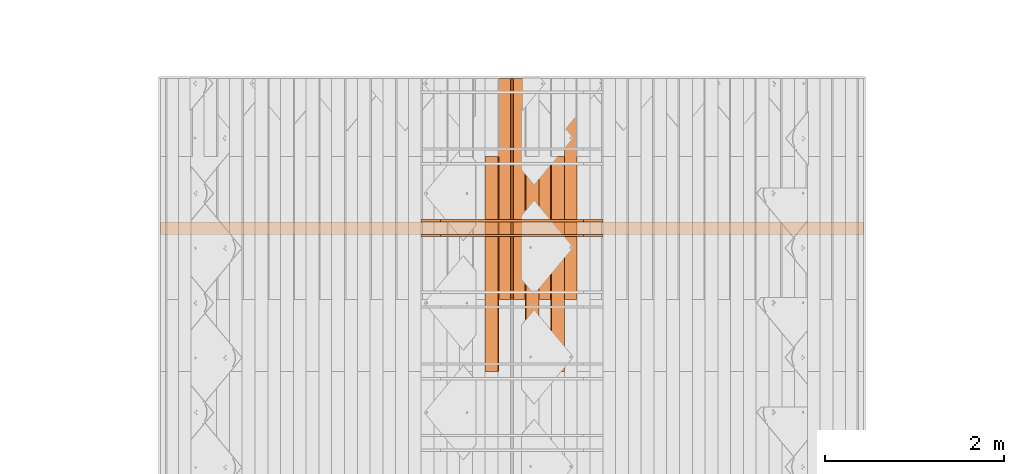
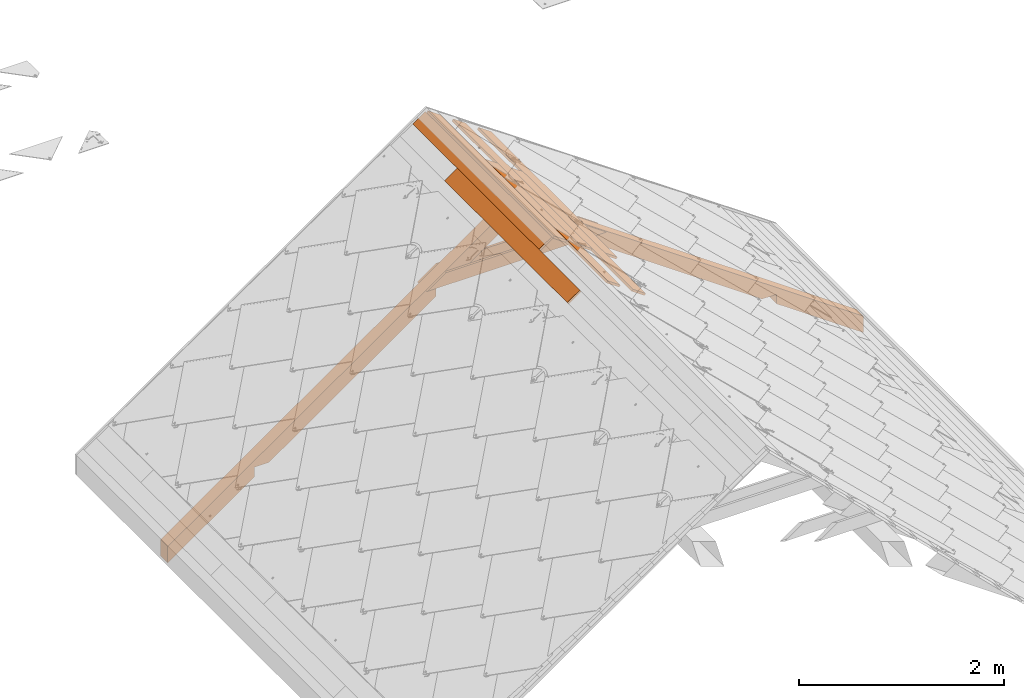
# One storey, part 71 of 151: 10 proxies, 1 element without a shape of its own.
"""IFC2X3 building model written with IfcOpenShell, lengths in millimetres."""

from ifc_helpers import new_model, entity, si_unit, converted_unit, derived_unit, direction, frame, frame_2d, origin, place, context, subcontext, project, spatial, polyline, rectangle, outline, extrude, source, transform, mapped, material, type_object, type_shapes, element, aggregate, save


model = new_model("IFC2X3")

# Units and contexts
model_context = context("Model", 3, precision=0.01, world=origin(), true_north=direction((6.12303176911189e-17, 1.0)))
body_context = subcontext(model_context, "Body", "Model", "MODEL_VIEW")
ifc_project = project(units=[si_unit("LENGTHUNIT", "METRE", prefix="MILLI"), si_unit("AREAUNIT", "SQUARE_METRE"), si_unit("VOLUMEUNIT", "CUBIC_METRE"), converted_unit("PLANEANGLEUNIT", "DEGREE", entity("IfcRatioMeasure", 0.0174532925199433), si_unit("PLANEANGLEUNIT", "RADIAN"), dimensions=[0, 0, 0, 0, 0, 0, 0]), si_unit("MASSUNIT", "GRAM", prefix="KILO"), derived_unit("MASSDENSITYUNIT", [(si_unit("MASSUNIT", "GRAM", prefix="KILO"), 1), (si_unit("LENGTHUNIT", "METRE"), -3)]), si_unit("TIMEUNIT", "SECOND"), si_unit("FREQUENCYUNIT", "HERTZ"), si_unit("THERMODYNAMICTEMPERATUREUNIT", "DEGREE_CELSIUS"), derived_unit("THERMALTRANSMITTANCEUNIT", [(si_unit("MASSUNIT", "GRAM", prefix="KILO"), 1), (si_unit("THERMODYNAMICTEMPERATUREUNIT", "KELVIN"), -1), (si_unit("TIMEUNIT", "SECOND"), -3)]), derived_unit("VOLUMETRICFLOWRATEUNIT", [(si_unit("LENGTHUNIT", "METRE"), 3), (si_unit("TIMEUNIT", "SECOND"), -1)]), si_unit("ELECTRICCURRENTUNIT", "AMPERE"), si_unit("ELECTRICVOLTAGEUNIT", "VOLT"), si_unit("POWERUNIT", "WATT"), si_unit("FORCEUNIT", "NEWTON", prefix="KILO"), si_unit("ILLUMINANCEUNIT", "LUX"), si_unit("LUMINOUSFLUXUNIT", "LUMEN"), si_unit("LUMINOUSINTENSITYUNIT", "CANDELA"), derived_unit("USERDEFINED", [(si_unit("MASSUNIT", "GRAM", prefix="KILO"), -1), (si_unit("LENGTHUNIT", "METRE"), -2), (si_unit("TIMEUNIT", "SECOND"), 3), (si_unit("LUMINOUSFLUXUNIT", "LUMEN"), 1)]), derived_unit("LINEARVELOCITYUNIT", [(si_unit("LENGTHUNIT", "METRE"), 1), (si_unit("TIMEUNIT", "SECOND"), -1)]), si_unit("PRESSUREUNIT", "PASCAL"), derived_unit("USERDEFINED", [(si_unit("LENGTHUNIT", "METRE"), -2), (si_unit("MASSUNIT", "GRAM", prefix="KILO"), 1), (si_unit("TIMEUNIT", "SECOND"), -2)])], contexts=[model_context])

# Site, building, storey
site_placement = place(None, origin())
site = spatial("IfcSite", under=ifc_project, at=site_placement, Name="Default", CompositionType="ELEMENT")
building_placement = place(site_placement, origin())
building = spatial("IfcBuilding", under=site, at=building_placement, CompositionType="ELEMENT")
storey_placement = place(building_placement, origin())
storey = spatial("IfcBuildingStorey", under=building, at=storey_placement, Name="Level 1", CompositionType="ELEMENT", Elevation=0.0)

# Assembly, proxies
assembly_placement = place(storey_placement, origin())
assembly = element("IfcElementAssembly", 1, at=assembly_placement, inside=storey, Name="Structural Framing Assembly:Roof Construction Assembly", ObjectType="Structural Framing Assembly:Roof Construction Assembly", AssemblyPlace="NOTDEFINED", PredefinedType="USERDEFINED")
ifc_material = material(Name="Wood - Generic - Wood For Showcase")
building_element_proxy_type_1 = type_object("IfcBuildingElementProxyType", Name="Structural Framing 1", PredefinedType="NOTDEFINED", material=ifc_material)
shared_shape_1 = source(origin(), body_context, "Body", "SweptSolid", [
    extrude(outline(polyline([(-929.245683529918, -1327.10037070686), (3863.25950492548, -1327.10037070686), (3975.29271103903, -1167.10037070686), (2778.93361405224, -1167.10037070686), (2713.54351952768, -1260.48710386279), (2580.17344271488, -1167.10037070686), (278.933614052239, -1167.10037070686), (213.543519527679, -1260.48710386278), (80.1734427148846, -1167.10037070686), (-817.212477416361, -1167.10037070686), (-1124.13653843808, -323.83344356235), (-1257.50661525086, -230.446710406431), (-1192.11652072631, -137.059977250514), (-1979.18689675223, 2025.39810840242), (-2112.55697356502, 2118.78484155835), (-2047.16687904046, 2212.17157471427), (-2456.34578886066, 3336.38138996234), (-2568.37899497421, 3176.38138996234), (-929.245683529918, -1327.10037070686)])), frame((1206.77890726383, 3785.55080214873, 1179.90959070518), z_axis=(0.0, 1.0, 0.0), x_axis=(0.819152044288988, 0.0, -0.573576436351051)), (0.0, 0.0, 1.0), 140.0),
])
type_shapes(building_element_proxy_type_1, [shared_shape_1])
proxy_1_placement = place(assembly_placement, frame((57.4878711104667, -1600.0, 0.0)))
proxy_1 = element("IfcBuildingElementProxy", 2, at=proxy_1_placement, type_object=building_element_proxy_type_1, material=ifc_material, Name="Structural Framing 3:Structural Framing 1", ObjectType="Structural Framing 3:Structural Framing 1", context=body_context, shape_type="MappedRepresentation", body=[
    mapped(shared_shape_1, transform((0.0, 0.0, 0.0), scale=1.0)),
])
building_element_proxy_type_2 = type_object("IfcBuildingElementProxyType", Name="Structural Framing 15", PredefinedType="NOTDEFINED", material=ifc_material)
shared_shape_2 = source(origin(), body_context, "Body", "SweptSolid", [
    extrude(rectangle(XDim=24.9999999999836, YDim=174.344679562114, at=frame_2d((3.73923114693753e-13, 6.3948846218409e-14), x_axis=(1.0, 0.0))), frame((1285.35601305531, 1455.55080214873, 2760.23940055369), z_axis=(0.0, 1.0, 0.0), x_axis=(0.573576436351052, 0.0, 0.819152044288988)), (0.0, 0.0, 1.0), 2469.99999999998),
])
type_shapes(building_element_proxy_type_2, [shared_shape_2])
proxy_2_placement = place(assembly_placement, frame((57.4878711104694, 0.0, 0.0)))
proxy_2 = element("IfcBuildingElementProxy", 3, at=proxy_2_placement, type_object=building_element_proxy_type_2, material=ifc_material, Name="Structural Framing 155:Structural Framing 15", ObjectType="Structural Framing 155:Structural Framing 15", context=body_context, shape_type="MappedRepresentation", body=[
    mapped(shared_shape_2, transform((0.0, 0.0, 0.0), scale=1.0)),
])
building_element_proxy_type_3 = type_object("IfcBuildingElementProxyType", Name="Structural Framing 15", PredefinedType="NOTDEFINED", material=ifc_material)
shared_shape_3 = source(origin(), body_context, "Body", "SweptSolid", [
    extrude(rectangle(XDim=24.9999999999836, YDim=174.344679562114, at=frame_2d((2.97539770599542e-13, -4.2632564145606e-14), x_axis=(1.0, 0.0))), frame((1285.35601305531, 1525.55080214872, 2760.23940055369), z_axis=(0.0, 1.0, 0.0), x_axis=(0.573576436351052, 0.0, 0.819152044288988)), (0.0, 0.0, 1.0), 2399.99999999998),
])
type_shapes(building_element_proxy_type_3, [shared_shape_3])
proxy_3_placement = place(assembly_placement, frame((200.302671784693, -870.0, -100.0)))
proxy_3 = element("IfcBuildingElementProxy", 4, at=proxy_3_placement, type_object=building_element_proxy_type_3, material=ifc_material, Name="Structural Framing 160:Structural Framing 15", ObjectType="Structural Framing 160:Structural Framing 15", context=body_context, shape_type="MappedRepresentation", body=[
    mapped(shared_shape_3, transform((0.0, 0.0, 0.0), scale=1.0)),
])
building_element_proxy_type_4 = type_object("IfcBuildingElementProxyType", Name="Structural Framing 15", PredefinedType="NOTDEFINED", material=ifc_material)
shared_shape_4 = source(origin(), body_context, "Body", "SweptSolid", [
    extrude(rectangle(XDim=24.9999999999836, YDim=174.344679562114, at=frame_2d((3.73923114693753e-13, 6.3948846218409e-14), x_axis=(1.0, 0.0))), frame((1285.35601305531, 1455.55080214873, 2760.23940055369), z_axis=(0.0, 1.0, 0.0), x_axis=(0.573576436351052, 0.0, 0.819152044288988)), (0.0, 0.0, 1.0), 2469.99999999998),
])
type_shapes(building_element_proxy_type_4, [shared_shape_4])
proxy_4_placement = place(assembly_placement, frame((343.11747245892, 0.0, -200.0)))
proxy_4 = element("IfcBuildingElementProxy", 5, at=proxy_4_placement, type_object=building_element_proxy_type_4, material=ifc_material, Name="Structural Framing 165:Structural Framing 15", ObjectType="Structural Framing 165:Structural Framing 15", context=body_context, shape_type="MappedRepresentation", body=[
    mapped(shared_shape_4, transform((0.0, 0.0, 0.0), scale=1.0)),
])
building_element_proxy_type_5 = type_object("IfcBuildingElementProxyType", Name="Structural Framing 15", PredefinedType="NOTDEFINED", material=ifc_material)
shared_shape_5 = source(origin(), body_context, "Body", "SweptSolid", [
    extrude(rectangle(XDim=24.9999999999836, YDim=174.344679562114, at=frame_2d((2.97539770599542e-13, -4.2632564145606e-14), x_axis=(1.0, 0.0))), frame((1285.35601305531, 1525.55080214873, 2760.23940055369), z_axis=(0.0, 1.0, 0.0), x_axis=(0.573576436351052, 0.0, 0.819152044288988)), (0.0, 0.0, 1.0), 2399.99999999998),
])
type_shapes(building_element_proxy_type_5, [shared_shape_5])
proxy_5_placement = place(assembly_placement, frame((485.932273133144, -870.0, -300.0)))
proxy_5 = element("IfcBuildingElementProxy", 6, at=proxy_5_placement, type_object=building_element_proxy_type_5, material=ifc_material, Name="Structural Framing 170:Structural Framing 15", ObjectType="Structural Framing 170:Structural Framing 15", context=body_context, shape_type="MappedRepresentation", body=[
    mapped(shared_shape_5, transform((0.0, 0.0, 0.0), scale=1.0)),
])
building_element_proxy_type_6 = type_object("IfcBuildingElementProxyType", Name="Structural Framing 15", PredefinedType="NOTDEFINED", material=ifc_material)
shared_shape_6 = source(origin(), body_context, "Body", "SweptSolid", [
    extrude(rectangle(XDim=24.9999999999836, YDim=174.344679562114, at=frame_2d((3.73923114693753e-13, 6.3948846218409e-14), x_axis=(1.0, 0.0))), frame((1285.35601305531, 1455.55080214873, 2760.23940055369), z_axis=(0.0, 1.0, 0.0), x_axis=(0.573576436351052, 0.0, 0.819152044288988)), (0.0, 0.0, 1.0), 2469.99999999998),
])
type_shapes(building_element_proxy_type_6, [shared_shape_6])
proxy_6_placement = place(assembly_placement, frame((628.747073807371, 0.0, -400.0)))
proxy_6 = element("IfcBuildingElementProxy", 7, at=proxy_6_placement, type_object=building_element_proxy_type_6, material=ifc_material, Name="Structural Framing 175:Structural Framing 15", ObjectType="Structural Framing 175:Structural Framing 15", context=body_context, shape_type="MappedRepresentation", body=[
    mapped(shared_shape_6, transform((0.0, 0.0, 0.0), scale=1.0)),
])
building_element_proxy_type_7 = type_object("IfcBuildingElementProxyType", Name="Structural Framing 15", PredefinedType="NOTDEFINED", material=ifc_material)
shared_shape_7 = source(origin(), body_context, "Body", "SweptSolid", [
    extrude(rectangle(XDim=24.9999999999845, YDim=174.344679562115, at=frame_2d((-1.77635683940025e-13, -4.54747350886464e-13), x_axis=(0.0, 1.0))), frame((1128.20180147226, 1455.55080214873, 2760.23940055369), z_axis=(0.0, 1.0, 0.0), x_axis=(-0.819152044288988, 0.0, -0.573576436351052)), (0.0, 0.0, 1.0), 2469.99999999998),
])
type_shapes(building_element_proxy_type_7, [shared_shape_7])
proxy_7_placement = place(assembly_placement, frame((57.4878711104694, 0.0, 0.0)))
proxy_7 = element("IfcBuildingElementProxy", 8, at=proxy_7_placement, type_object=building_element_proxy_type_7, material=ifc_material, Name="Structural Framing 15:Structural Framing 15", ObjectType="Structural Framing 15:Structural Framing 15", context=body_context, shape_type="MappedRepresentation", body=[
    mapped(shared_shape_7, transform((0.0, 0.0, 0.0), scale=1.0)),
])
building_element_proxy_type_8 = type_object("IfcBuildingElementProxyType", Name="Structural Framing 15", PredefinedType="NOTDEFINED", material=ifc_material)
shared_shape_8 = source(origin(), body_context, "Body", "SweptSolid", [
    extrude(rectangle(XDim=24.9999999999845, YDim=174.344679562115, at=frame_2d((-1.77635683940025e-13, -4.54747350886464e-13), x_axis=(0.0, 1.0))), frame((1128.20180147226, 1525.55080214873, 2760.23940055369), z_axis=(0.0, 1.0, 0.0), x_axis=(-0.819152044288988, 0.0, -0.573576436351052)), (0.0, 0.0, 1.0), 2399.99999999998),
])
type_shapes(building_element_proxy_type_8, [shared_shape_8])
proxy_8_placement = place(assembly_placement, frame((-85.3269295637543, -870.0, -100.0)))
proxy_8 = element("IfcBuildingElementProxy", 9, at=proxy_8_placement, type_object=building_element_proxy_type_8, material=ifc_material, Name="Structural Framing 20:Structural Framing 15", ObjectType="Structural Framing 20:Structural Framing 15", context=body_context, shape_type="MappedRepresentation", body=[
    mapped(shared_shape_8, transform((0.0, 0.0, 0.0), scale=1.0)),
])
building_element_proxy_type_9 = type_object("IfcBuildingElementProxyType", Name="Structural Framing 296", PredefinedType="NOTDEFINED", material=ifc_material)
shared_shape_9 = source(origin(), body_context, "Body", "SweptSolid", [
    extrude(outline(polyline([(-1014.04699829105, -75.0), (1014.04699829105, -75.0), (799.824797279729, 75.0), (-799.824797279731, 75.0), (-1014.04699829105, -75.0)])), frame((1206.77890726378, 3760.55080214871, 2164.95664769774), z_axis=(0.0, 1.0, 0.0), x_axis=(-1.0, 0.0, 0.0)), (0.0, 0.0, 1.0), 24.9999999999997),
])
type_shapes(building_element_proxy_type_9, [shared_shape_9])
proxy_9_placement = place(assembly_placement, frame((57.4878711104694, -1600.0, 0.0)))
proxy_9 = element("IfcBuildingElementProxy", 10, at=proxy_9_placement, type_object=building_element_proxy_type_9, material=ifc_material, Name="Structural Framing 299:Structural Framing 296", ObjectType="Structural Framing 299:Structural Framing 296", context=body_context, shape_type="MappedRepresentation", body=[
    mapped(shared_shape_9, transform((0.0, 0.0, 0.0), scale=1.0)),
])
building_element_proxy_type_10 = type_object("IfcBuildingElementProxyType", Name="Structural Framing 296", PredefinedType="NOTDEFINED", material=ifc_material)
shared_shape_10 = source(origin(), body_context, "Body", "SweptSolid", [
    extrude(outline(polyline([(-1014.04699829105, -75.0), (1014.04699829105, -75.0), (799.824797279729, 75.0), (-799.824797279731, 75.0), (-1014.04699829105, -75.0)])), frame((1206.77890726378, 2325.55080214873, 2164.95664769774), z_axis=(0.0, 1.0, 0.0), x_axis=(-1.0, 0.0, 0.0)), (0.0, 0.0, 1.0), 25.0),
])
type_shapes(building_element_proxy_type_10, [shared_shape_10])
proxy_10_placement = place(assembly_placement, frame((57.4878711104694, 0.0, 0.0)))
proxy_10 = element("IfcBuildingElementProxy", 11, at=proxy_10_placement, type_object=building_element_proxy_type_10, material=ifc_material, Name="Structural Framing 300:Structural Framing 296", ObjectType="Structural Framing 300:Structural Framing 296", context=body_context, shape_type="MappedRepresentation", body=[
    mapped(shared_shape_10, transform((0.0, 0.0, 0.0), scale=1.0)),
])
aggregate(assembly, [proxy_1, proxy_2, proxy_3, proxy_4, proxy_5, proxy_6, proxy_7, proxy_8, proxy_9, proxy_10])

save(model, "model.ifc")
